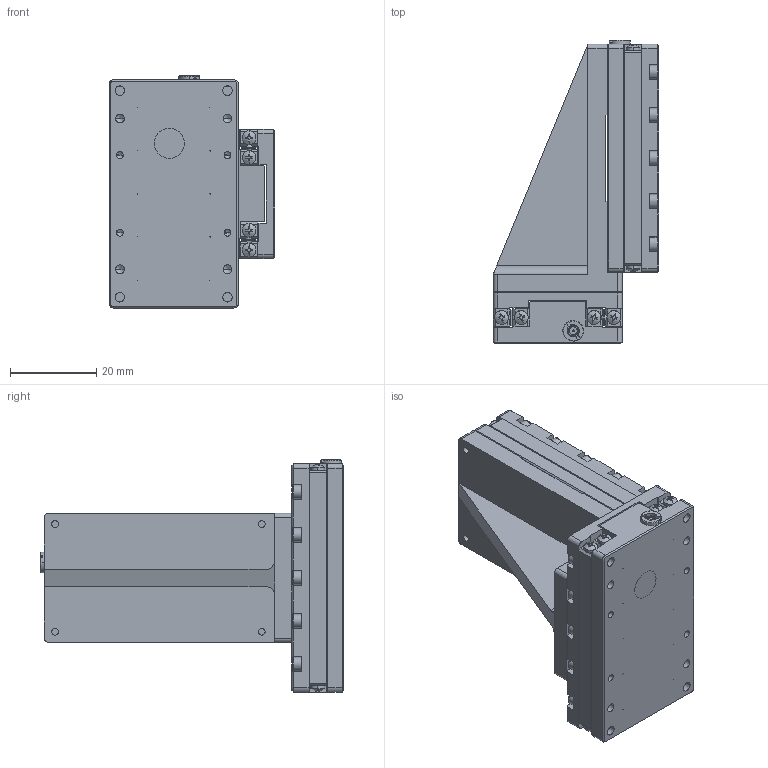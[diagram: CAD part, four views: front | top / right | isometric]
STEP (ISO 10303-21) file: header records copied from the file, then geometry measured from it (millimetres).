
FILE_DESCRIPTION (( 'STEP AP214' ), '1' );
FILE_NAME ('N56.XZ30K-B1开环二维直线压电马达3D图（25.08.01）.STEP', '2025-08-04T05:20:29', ( '微软用户' ), ( '微软中国' ), 'SwSTEP 2.0', 'SolidWorks 2016', '' );
FILE_SCHEMA (( 'AUTOMOTIVE_DESIGN' ));
Length unit declared in the file: millimetre
Products named in the file (1): N56.XZ30K-B1开环二维直线压电马达3D图（25.08.01）
Bounding box: 38.5 x 70.4 x 53.9 mm (x, y, z)
Volume: 39891.3 mm3; surface area: 40331.1 mm2
Topology: 131 solids, 131 shells, 3015 faces, 7479 edges, 4774 vertices
Faces by surface type: plane 1513, cylinder 1118, cone 268, bspline 116
Entity records: 124952 total; most frequent: CARTESIAN_POINT 18371, DIRECTION 15327, ORIENTED_EDGE 14558, EDGE_CURVE 7279, AXIS2_PLACEMENT_3D 5618, VERTEX_POINT 4774, VECTOR 4091, LINE 4091
